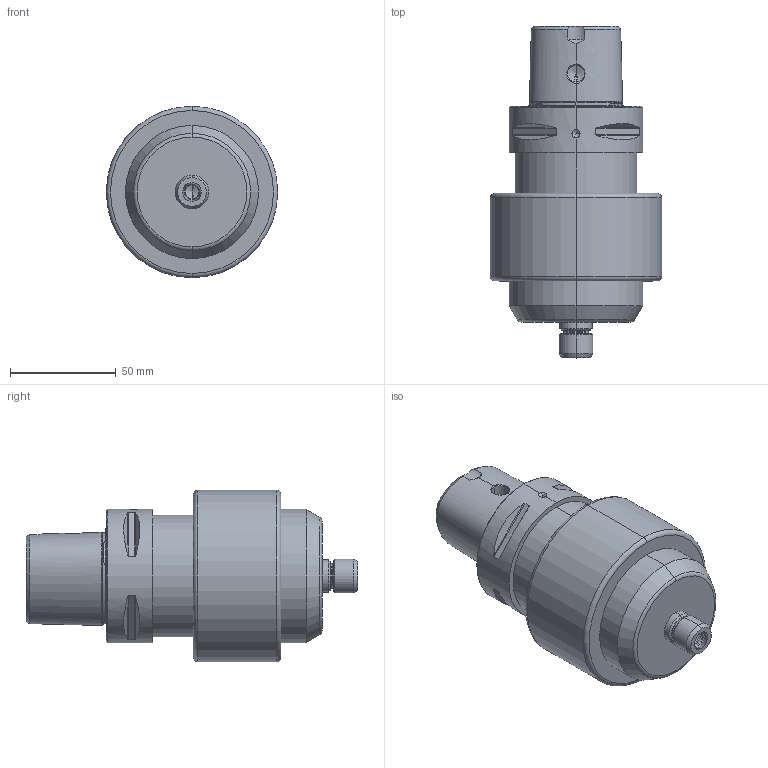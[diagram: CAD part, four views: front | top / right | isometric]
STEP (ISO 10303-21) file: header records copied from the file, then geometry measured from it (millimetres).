
FILE_DESCRIPTION (( 'STEP AP214' ), '1' );
FILE_NAME ('TJS-GJET-C6-Light.STEP', '2018-05-01T06:04:36', ( '' ), ( '' ), 'SwSTEP 2.0', 'SolidWorks 2015', '' );
FILE_SCHEMA (( 'AUTOMOTIVE_DESIGN' ));
Length unit declared in the file: millimetre
Products named in the file (1): TJS-GJET-C6-Light
Bounding box: 81.1 x 157.04 x 81.1 mm (x, y, z)
Volume: 417799.2 mm3; surface area: 43777.9 mm2
Topology: 1 solids, 1 shells, 157 faces, 362 edges, 212 vertices
Faces by surface type: cone 51, cylinder 45, plane 27, torus 20, bspline 14
Entity records: 9849 total; most frequent: CARTESIAN_POINT 6416, DIRECTION 707, ORIENTED_EDGE 706, EDGE_CURVE 353, AXIS2_PLACEMENT_3D 295, VERTEX_POINT 212, EDGE_LOOP 173, FACE_OUTER_BOUND 157
